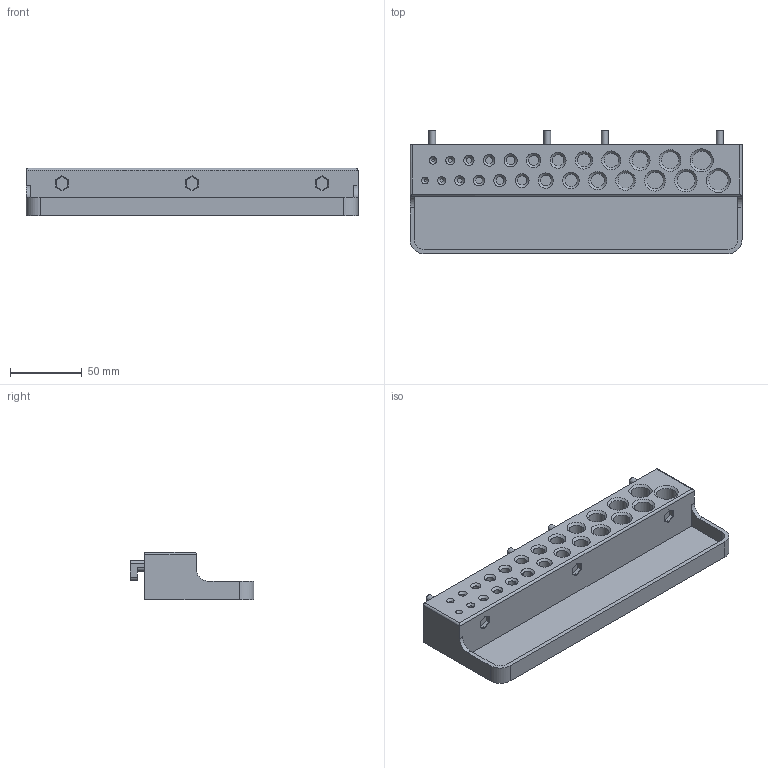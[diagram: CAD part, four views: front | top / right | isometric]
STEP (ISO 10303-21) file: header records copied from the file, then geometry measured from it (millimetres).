
FILE_DESCRIPTION(/* description */ (''),/* implementation_level */ '2;1');
FILE_NAME(/* name */ 'Bohrer Halter - SKADIS - Grundkrper.step',/* time_stamp */ '2025-09-30T01:10:37+02:00',/* author */ (''),/* organization */ (''),/* preprocessor_version */ 'ST-DEVELOPER v20.1',/* originating_system */ 'Autodesk Translation Framework v14.17.0.0',/* authorisation */ '');
FILE_SCHEMA (('AUTOMOTIVE_DESIGN { 1 0 10303 214 3 1 1 }'));
Length unit declared in the file: millimetre
Products named in the file (1): Bohrer Halter - SKADIS
Bounding box: 231 x 86.1 x 33 mm (x, y, z)
Volume: 277018.9 mm3; surface area: 74242.7 mm2
Topology: 1 solids, 1 shells, 163 faces, 342 edges, 213 vertices
Faces by surface type: plane 92, cylinder 46, cone 25
Full cylindrical faces by diameter (mm): 1.6 x1, 2.1 x1, 2.6 x1, 3.1 x1, 3.6 x1, 4.1 x1, 4.6 x1, 5.1 x1, 5.6 x1, 6.1 x1, 6.6 x1, 7.1 x1, 7.6 x1, 8.1 x1, 8.6 x1, 9.1 x1, 9.6 x1, 10.1 x1, 10.6 x1, 11.1 x1, 11.6 x1, 12.1 x1, 12.6 x1, 13.1 x1, 13.6 x1
Entity records: 4358 total; most frequent: DIRECTION 785, CARTESIAN_POINT 719, ORIENTED_EDGE 684, EDGE_CURVE 342, AXIS2_PLACEMENT_3D 279, LINE 227, VECTOR 227, VERTEX_POINT 213
